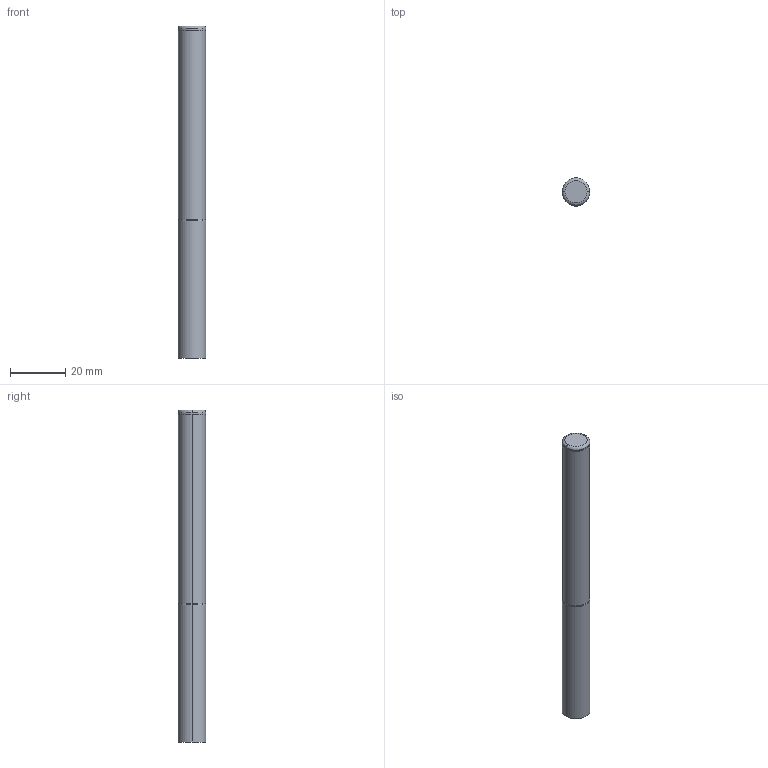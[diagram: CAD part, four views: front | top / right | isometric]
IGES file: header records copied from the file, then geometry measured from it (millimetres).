
Start section: 3D InterOp IGES (v. 2020 1.0.1), Spatial Corp. Copyright (c) 1999-2017.
Global section: file name: WZF279967_10_70_1.igs; native system: Spatial Corp.; preprocessor: 3D InterOp GENERIC/IGES 3.0; author: Noname; organization: Noname; date: 20201007.094534; units: metre
Bounding box: 10 x 10 x 120 mm (x, y, z)
Surface area: 3873.4 mm2 (no closed solid volume)
Topology: 0 solids, 0 shells, 13 faces, 48 edges, 48 vertices
Faces by surface type: revolution 10, extrusion 3
